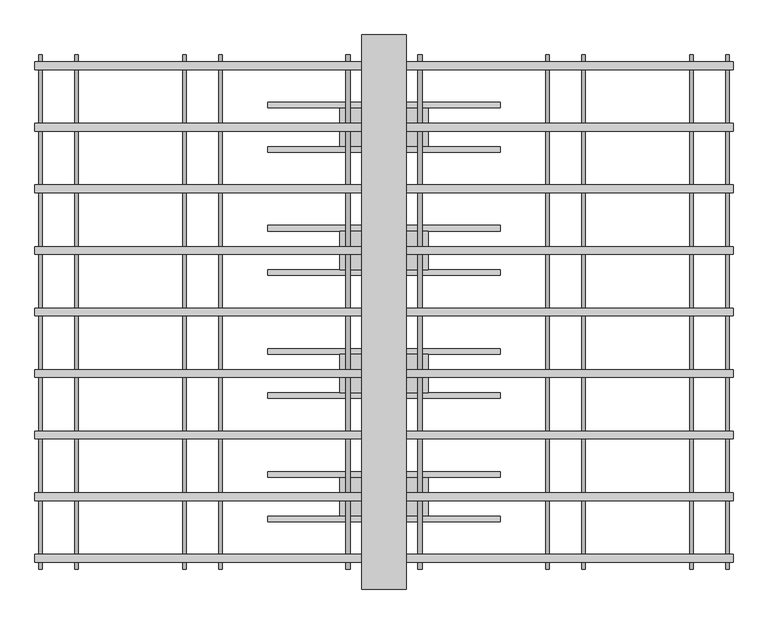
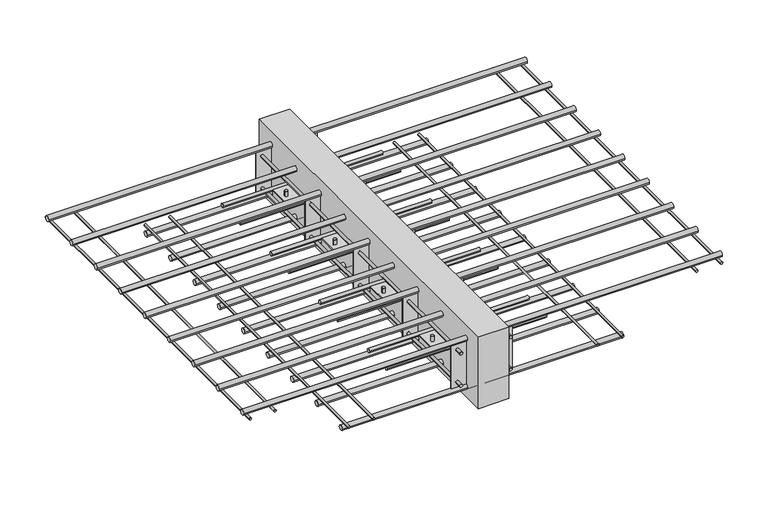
"""IFC4 building model written with IfcOpenShell, lengths in millimetres: proxy geometry, ACINOXplus_Typenreihe_K : KG+ S4."""

from ifc_helpers import new_model, si_unit, point, frame, frame_2d, origin, place, context, project, spatial, polyline, circle_curve, trimmed, segment, composite_curve, outline, extrude, source, transform, mapped, element, save
from ifc_brep_helpers import plane_surface, cylinder_surface, advanced_brep


def generic_models_16729dbf(model_context):
    return source(origin(), model_context, "Body", "SolidModel", [
        extrude(outline(composite_curve([segment(trimmed(circle_curve(frame_2d((-373.3333333, -104.0)), 5.0), [point((-378.3333333, -104.0))], [point((-368.3333333, -104.0))], False, "CARTESIAN"), True, "CONTINUOUS"), segment(trimmed(circle_curve(frame_2d((-373.3333333, -104.0)), 5.0), [point((-368.3333333, -104.0))], [point((-378.3333333, -104.0))], False, "CARTESIAN"), True, "CONTINUOUS")], self_intersect=False)), frame((-210.0, 0.0, 0.0), z_axis=(1.0, 0.0, 0.0), x_axis=(0.0, 1.0, 0.0)), (0.0, 0.0, 1.0), 420.0),
        extrude(outline(composite_curve([segment(trimmed(circle_curve(frame_2d((-293.3333333, -104.0)), 5.0), [point((-298.3333333, -104.0))], [point((-288.3333333, -104.0))], False, "CARTESIAN"), True, "CONTINUOUS"), segment(trimmed(circle_curve(frame_2d((-293.3333333, -104.0)), 5.0), [point((-288.3333333, -104.0))], [point((-298.3333333, -104.0))], False, "CARTESIAN"), True, "CONTINUOUS")], self_intersect=False)), frame((-210.0, 0.0, 0.0), z_axis=(1.0, 0.0, 0.0), x_axis=(0.0, 1.0, 0.0)), (0.0, 0.0, 1.0), 420.0),
        advanced_brep(
        [(-69.0, -333.3333333, -89.0), (-61.0, -333.3333333, -89.0), (61.0, -333.3333333, -89.0), (69.0, -333.3333333, -89.0), (-69.0, -333.3333333, -119.0), (-61.0, -333.3333333, -119.0), (61.0, -333.3333333, -119.0), (69.0, -333.3333333, -119.0), (-69.0, -333.3333333, -102.5), (-61.0, -333.3333333, -102.5), (-61.0, -333.3333333, -105.5), (-69.0, -333.3333333, -105.5), (61.0, -333.3333333, -102.5), (69.0, -333.3333333, -102.5), (69.0, -333.3333333, -105.5), (61.0, -333.3333333, -105.5), (80.0, -298.3333333, -102.5), (-80.0, -298.3333333, -102.5), (-80.0, -368.3333333, -102.5), (80.0, -368.3333333, -102.5), (80.0, -298.3333333, -105.5), (80.0, -368.3333333, -105.5), (-80.0, -368.3333333, -105.5), (-80.0, -298.3333333, -105.5)],
        [
            (0, 1, circle_curve(frame((-65.0, -333.3333333, -89.0), z_axis=(0.0, 0.0, 1.0), x_axis=(1.0, 0.0, 0.0)), 4.0)),
            (1, 0, circle_curve(frame((-65.0, -333.3333333, -89.0), z_axis=(0.0, 0.0, 1.0), x_axis=(1.0, 0.0, 0.0)), 4.0)),
            (2, 3, circle_curve(frame((65.0, -333.3333333, -89.0), z_axis=(0.0, 0.0, 1.0), x_axis=(1.0, 0.0, 0.0)), 4.0)),
            (3, 2, circle_curve(frame((65.0, -333.3333333, -89.0), z_axis=(0.0, 0.0, 1.0), x_axis=(1.0, 0.0, 0.0)), 4.0)),
            (4, 5, circle_curve(frame((-65.0, -333.3333333, -119.0), z_axis=(0.0, 0.0, -1.0), x_axis=(1.0, 0.0, 0.0)), 4.0)),
            (5, 4, circle_curve(frame((-65.0, -333.3333333, -119.0), z_axis=(0.0, 0.0, -1.0), x_axis=(1.0, 0.0, 0.0)), 4.0)),
            (6, 7, circle_curve(frame((65.0, -333.3333333, -119.0), z_axis=(0.0, 0.0, -1.0), x_axis=(1.0, 0.0, 0.0)), 4.0)),
            (7, 6, circle_curve(frame((65.0, -333.3333333, -119.0), z_axis=(0.0, 0.0, -1.0), x_axis=(1.0, 0.0, 0.0)), 4.0)),
            (0, 8),
            (8, 9, circle_curve(frame((-65.0, -333.3333333, -102.5), z_axis=(0.0, 0.0, 1.0), x_axis=(1.0, 0.0, 0.0)), 4.0)),
            (9, 1),
            (5, 10),
            (10, 11, circle_curve(frame((-65.0, -333.3333333, -105.5), z_axis=(0.0, 0.0, -1.0), x_axis=(1.0, 0.0, 0.0)), 4.0)),
            (11, 4),
            (9, 8, circle_curve(frame((-65.0, -333.3333333, -102.5), z_axis=(0.0, 0.0, 1.0), x_axis=(1.0, 0.0, 0.0)), 4.0)),
            (11, 10, circle_curve(frame((-65.0, -333.3333333, -105.5), z_axis=(0.0, 0.0, -1.0), x_axis=(1.0, 0.0, 0.0)), 4.0)),
            (2, 12),
            (12, 13, circle_curve(frame((65.0, -333.3333333, -102.5), z_axis=(0.0, 0.0, 1.0), x_axis=(1.0, 0.0, 0.0)), 4.0)),
            (13, 3),
            (7, 14),
            (14, 15, circle_curve(frame((65.0, -333.3333333, -105.5), z_axis=(0.0, 0.0, -1.0), x_axis=(1.0, 0.0, 0.0)), 4.0)),
            (15, 6),
            (13, 12, circle_curve(frame((65.0, -333.3333333, -102.5), z_axis=(0.0, 0.0, 1.0), x_axis=(1.0, 0.0, 0.0)), 4.0)),
            (15, 14, circle_curve(frame((65.0, -333.3333333, -105.5), z_axis=(0.0, 0.0, -1.0), x_axis=(1.0, 0.0, 0.0)), 4.0)),
            (16, 17),
            (17, 18),
            (18, 19),
            (19, 16),
            (20, 21),
            (21, 22),
            (22, 23),
            (23, 20),
            (16, 20),
            (23, 17),
            (22, 18),
            (21, 19),
        ],
        [
            plane_surface(frame((-61.0, -333.3333333, -89.0), z_axis=(0.0, 0.0, 1.0), x_axis=(0.0, 1.0, 0.0))),
            plane_surface(frame((-61.0, -333.3333333, -119.0), z_axis=(0.0, 0.0, -1.0), x_axis=(0.0, -1.0, 0.0))),
            cylinder_surface(frame((-65.0, -333.3333333, -119.0), z_axis=(0.0, 0.0, 1.0), x_axis=(1.0, 0.0, 0.0)), 4.0),
            cylinder_surface(frame((65.0, -333.3333333, -104.0), z_axis=(0.0, 0.0, 1.0), x_axis=(1.0, 0.0, 0.0)), 4.0),
            plane_surface(frame((-80.0, -298.3333333, -102.5), z_axis=(0.0, 0.0, 1.0), x_axis=(-1.0, 0.0, 0.0))),
            plane_surface(frame((-80.0, -298.3333333, -105.5), z_axis=(0.0, 0.0, -1.0), x_axis=(1.0, 0.0, 0.0))),
            plane_surface(frame((80.0, -298.3333333, -102.5), z_axis=(0.0, 1.0, 0.0), x_axis=(0.0, 0.0, -1.0))),
            plane_surface(frame((-80.0, -298.3333333, -102.5), z_axis=(-1.0, 0.0, 0.0), x_axis=(0.0, 0.0, -1.0))),
            plane_surface(frame((-80.0, -368.3333333, -102.5), z_axis=(0.0, -1.0, 0.0), x_axis=(0.0, 0.0, -1.0))),
            plane_surface(frame((80.0, -368.3333333, -102.5), z_axis=(1.0, 0.0, 0.0), x_axis=(0.0, 0.0, -1.0))),
        ],
        [
            (0, [[1, 2]]),
            (0, [[3, 4]]),
            (1, [[5, 6]]),
            (1, [[7, 8]]),
            (2, [[-1, 9, 10, 11]]),
            (2, [[-6, 12, 13, 14]]),
            (2, [[-2, -11, 15, -9]]),
            (2, [[-5, -14, 16, -12]]),
            (3, [[-3, 17, 18, 19]]),
            (3, [[-8, 20, 21, 22]]),
            (3, [[-4, -19, 23, -17]]),
            (3, [[-7, -22, 24, -20]]),
            (4, [[25, 26, 27, 28], [-10, -15], [-18, -23]]),
            (5, [[29, 30, 31, 32], [-13, -16], [-21, -24]]),
            (6, [[-25, 33, -32, 34]]),
            (7, [[-26, -34, -31, 35]]),
            (8, [[-27, -35, -30, 36]]),
            (9, [[-28, -36, -29, -33]]),
        ],
    ),
        extrude(outline(composite_curve([segment(trimmed(circle_curve(frame_2d((293.3333333, -104.0)), 5.0), [point((288.3333333, -104.0))], [point((298.3333333, -104.0))], False, "CARTESIAN"), True, "CONTINUOUS"), segment(trimmed(circle_curve(frame_2d((293.3333333, -104.0)), 5.0), [point((298.3333333, -104.0))], [point((288.3333333, -104.0))], False, "CARTESIAN"), True, "CONTINUOUS")], self_intersect=False)), frame((-210.0, 0.0, 0.0), z_axis=(1.0, 0.0, 0.0), x_axis=(0.0, 1.0, 0.0)), (0.0, 0.0, 1.0), 420.0),
        extrude(outline(composite_curve([segment(trimmed(circle_curve(frame_2d((373.3333333, -104.0)), 5.0), [point((368.3333333, -104.0))], [point((378.3333333, -104.0))], False, "CARTESIAN"), True, "CONTINUOUS"), segment(trimmed(circle_curve(frame_2d((373.3333333, -104.0)), 5.0), [point((378.3333333, -104.0))], [point((368.3333333, -104.0))], False, "CARTESIAN"), True, "CONTINUOUS")], self_intersect=False)), frame((-210.0, 0.0, 0.0), z_axis=(1.0, 0.0, 0.0), x_axis=(0.0, 1.0, 0.0)), (0.0, 0.0, 1.0), 420.0),
        advanced_brep(
        [(-69.0, 333.3333333, -89.0), (-61.0, 333.3333333, -89.0), (61.0, 333.3333333, -89.0), (69.0, 333.3333333, -89.0), (-69.0, 333.3333333, -119.0), (-61.0, 333.3333333, -119.0), (61.0, 333.3333333, -119.0), (69.0, 333.3333333, -119.0), (-69.0, 333.3333333, -102.5), (-61.0, 333.3333333, -102.5), (-61.0, 333.3333333, -105.5), (-69.0, 333.3333333, -105.5), (61.0, 333.3333333, -102.5), (69.0, 333.3333333, -102.5), (69.0, 333.3333333, -105.5), (61.0, 333.3333333, -105.5), (80.0, 368.3333333, -102.5), (-80.0, 368.3333333, -102.5), (-80.0, 298.3333333, -102.5), (80.0, 298.3333333, -102.5), (80.0, 368.3333333, -105.5), (80.0, 298.3333333, -105.5), (-80.0, 298.3333333, -105.5), (-80.0, 368.3333333, -105.5)],
        [
            (0, 1, circle_curve(frame((-65.0, 333.3333333, -89.0), z_axis=(0.0, 0.0, 1.0), x_axis=(1.0, 0.0, 0.0)), 4.0)),
            (1, 0, circle_curve(frame((-65.0, 333.3333333, -89.0), z_axis=(0.0, 0.0, 1.0), x_axis=(1.0, 0.0, 0.0)), 4.0)),
            (2, 3, circle_curve(frame((65.0, 333.3333333, -89.0), z_axis=(0.0, 0.0, 1.0), x_axis=(1.0, 0.0, 0.0)), 4.0)),
            (3, 2, circle_curve(frame((65.0, 333.3333333, -89.0), z_axis=(0.0, 0.0, 1.0), x_axis=(1.0, 0.0, 0.0)), 4.0)),
            (4, 5, circle_curve(frame((-65.0, 333.3333333, -119.0), z_axis=(0.0, 0.0, -1.0), x_axis=(1.0, 0.0, 0.0)), 4.0)),
            (5, 4, circle_curve(frame((-65.0, 333.3333333, -119.0), z_axis=(0.0, 0.0, -1.0), x_axis=(1.0, 0.0, 0.0)), 4.0)),
            (6, 7, circle_curve(frame((65.0, 333.3333333, -119.0), z_axis=(0.0, 0.0, -1.0), x_axis=(1.0, 0.0, 0.0)), 4.0)),
            (7, 6, circle_curve(frame((65.0, 333.3333333, -119.0), z_axis=(0.0, 0.0, -1.0), x_axis=(1.0, 0.0, 0.0)), 4.0)),
            (0, 8),
            (8, 9, circle_curve(frame((-65.0, 333.3333333, -102.5), z_axis=(0.0, 0.0, 1.0), x_axis=(1.0, 0.0, 0.0)), 4.0)),
            (9, 1),
            (5, 10),
            (10, 11, circle_curve(frame((-65.0, 333.3333333, -105.5), z_axis=(0.0, 0.0, -1.0), x_axis=(1.0, 0.0, 0.0)), 4.0)),
            (11, 4),
            (9, 8, circle_curve(frame((-65.0, 333.3333333, -102.5), z_axis=(0.0, 0.0, 1.0), x_axis=(1.0, 0.0, 0.0)), 4.0)),
            (11, 10, circle_curve(frame((-65.0, 333.3333333, -105.5), z_axis=(0.0, 0.0, -1.0), x_axis=(1.0, 0.0, 0.0)), 4.0)),
            (2, 12),
            (12, 13, circle_curve(frame((65.0, 333.3333333, -102.5), z_axis=(0.0, 0.0, 1.0), x_axis=(1.0, 0.0, 0.0)), 4.0)),
            (13, 3),
            (7, 14),
            (14, 15, circle_curve(frame((65.0, 333.3333333, -105.5), z_axis=(0.0, 0.0, -1.0), x_axis=(1.0, 0.0, 0.0)), 4.0)),
            (15, 6),
            (13, 12, circle_curve(frame((65.0, 333.3333333, -102.5), z_axis=(0.0, 0.0, 1.0), x_axis=(1.0, 0.0, 0.0)), 4.0)),
            (15, 14, circle_curve(frame((65.0, 333.3333333, -105.5), z_axis=(0.0, 0.0, -1.0), x_axis=(1.0, 0.0, 0.0)), 4.0)),
            (16, 17),
            (17, 18),
            (18, 19),
            (19, 16),
            (20, 21),
            (21, 22),
            (22, 23),
            (23, 20),
            (16, 20),
            (23, 17),
            (22, 18),
            (21, 19),
        ],
        [
            plane_surface(frame((-61.0, 333.3333333, -89.0), z_axis=(0.0, 0.0, 1.0), x_axis=(0.0, 1.0, 0.0))),
            plane_surface(frame((-61.0, 333.3333333, -119.0), z_axis=(0.0, 0.0, -1.0), x_axis=(0.0, -1.0, 0.0))),
            cylinder_surface(frame((-65.0, 333.3333333, -119.0), z_axis=(0.0, 0.0, 1.0), x_axis=(1.0, 0.0, 0.0)), 4.0),
            cylinder_surface(frame((65.0, 333.3333333, -104.0), z_axis=(0.0, 0.0, 1.0), x_axis=(1.0, 0.0, 0.0)), 4.0),
            plane_surface(frame((-80.0, 368.3333333, -102.5), z_axis=(0.0, 0.0, 1.0), x_axis=(-1.0, 0.0, 0.0))),
            plane_surface(frame((-80.0, 368.3333333, -105.5), z_axis=(0.0, 0.0, -1.0), x_axis=(1.0, 0.0, 0.0))),
            plane_surface(frame((80.0, 368.3333333, -102.5), z_axis=(0.0, 1.0, 0.0), x_axis=(0.0, 0.0, -1.0))),
            plane_surface(frame((-80.0, 368.3333333, -102.5), z_axis=(-1.0, 0.0, 0.0), x_axis=(0.0, 0.0, -1.0))),
            plane_surface(frame((-80.0, 298.3333333, -102.5), z_axis=(0.0, -1.0, 0.0), x_axis=(0.0, 0.0, -1.0))),
            plane_surface(frame((80.0, 298.3333333, -102.5), z_axis=(1.0, 0.0, 0.0), x_axis=(0.0, 0.0, -1.0))),
        ],
        [
            (0, [[1, 2]]),
            (0, [[3, 4]]),
            (1, [[5, 6]]),
            (1, [[7, 8]]),
            (2, [[-1, 9, 10, 11]]),
            (2, [[-6, 12, 13, 14]]),
            (2, [[-2, -11, 15, -9]]),
            (2, [[-5, -14, 16, -12]]),
            (3, [[-3, 17, 18, 19]]),
            (3, [[-8, 20, 21, 22]]),
            (3, [[-4, -19, 23, -17]]),
            (3, [[-7, -22, 24, -20]]),
            (4, [[25, 26, 27, 28], [-10, -15], [-18, -23]]),
            (5, [[29, 30, 31, 32], [-13, -16], [-21, -24]]),
            (6, [[-25, 33, -32, 34]]),
            (7, [[-26, -34, -31, 35]]),
            (8, [[-27, -35, -30, 36]]),
            (9, [[-28, -36, -29, -33]]),
        ],
    ),
        extrude(outline(composite_curve([segment(trimmed(circle_curve(frame_2d((-151.1111111, -104.0)), 5.0), [point((-156.1111111, -104.0))], [point((-146.1111111, -104.0))], False, "CARTESIAN"), True, "CONTINUOUS"), segment(trimmed(circle_curve(frame_2d((-151.1111111, -104.0)), 5.0), [point((-146.1111111, -104.0))], [point((-156.1111111, -104.0))], False, "CARTESIAN"), True, "CONTINUOUS")], self_intersect=False)), frame((-210.0, 0.0, 0.0), z_axis=(1.0, 0.0, 0.0), x_axis=(0.0, 1.0, 0.0)), (0.0, 0.0, 1.0), 420.0),
        extrude(outline(composite_curve([segment(trimmed(circle_curve(frame_2d((-71.1111111, -104.0)), 5.0), [point((-76.1111111, -104.0))], [point((-66.1111111, -104.0))], False, "CARTESIAN"), True, "CONTINUOUS"), segment(trimmed(circle_curve(frame_2d((-71.1111111, -104.0)), 5.0), [point((-66.1111111, -104.0))], [point((-76.1111111, -104.0))], False, "CARTESIAN"), True, "CONTINUOUS")], self_intersect=False)), frame((-210.0, 0.0, 0.0), z_axis=(1.0, 0.0, 0.0), x_axis=(0.0, 1.0, 0.0)), (0.0, 0.0, 1.0), 420.0),
        advanced_brep(
        [(-69.0, -111.1111111, -89.0), (-61.0, -111.1111111, -89.0), (61.0, -111.1111111, -89.0), (69.0, -111.1111111, -89.0), (-69.0, -111.1111111, -119.0), (-61.0, -111.1111111, -119.0), (61.0, -111.1111111, -119.0), (69.0, -111.1111111, -119.0), (-69.0, -111.1111111, -102.5), (-61.0, -111.1111111, -102.5), (-61.0, -111.1111111, -105.5), (-69.0, -111.1111111, -105.5), (61.0, -111.1111111, -102.5), (69.0, -111.1111111, -102.5), (69.0, -111.1111111, -105.5), (61.0, -111.1111111, -105.5), (80.0, -76.1111111, -102.5), (-80.0, -76.1111111, -102.5), (-80.0, -146.1111111, -102.5), (80.0, -146.1111111, -102.5), (80.0, -76.1111111, -105.5), (80.0, -146.1111111, -105.5), (-80.0, -146.1111111, -105.5), (-80.0, -76.1111111, -105.5)],
        [
            (0, 1, circle_curve(frame((-65.0, -111.1111111, -89.0), z_axis=(0.0, 0.0, 1.0), x_axis=(1.0, 0.0, 0.0)), 4.0)),
            (1, 0, circle_curve(frame((-65.0, -111.1111111, -89.0), z_axis=(0.0, 0.0, 1.0), x_axis=(1.0, 0.0, 0.0)), 4.0)),
            (2, 3, circle_curve(frame((65.0, -111.1111111, -89.0), z_axis=(0.0, 0.0, 1.0), x_axis=(1.0, 0.0, 0.0)), 4.0)),
            (3, 2, circle_curve(frame((65.0, -111.1111111, -89.0), z_axis=(0.0, 0.0, 1.0), x_axis=(1.0, 0.0, 0.0)), 4.0)),
            (4, 5, circle_curve(frame((-65.0, -111.1111111, -119.0), z_axis=(0.0, 0.0, -1.0), x_axis=(1.0, 0.0, 0.0)), 4.0)),
            (5, 4, circle_curve(frame((-65.0, -111.1111111, -119.0), z_axis=(0.0, 0.0, -1.0), x_axis=(1.0, 0.0, 0.0)), 4.0)),
            (6, 7, circle_curve(frame((65.0, -111.1111111, -119.0), z_axis=(0.0, 0.0, -1.0), x_axis=(1.0, 0.0, 0.0)), 4.0)),
            (7, 6, circle_curve(frame((65.0, -111.1111111, -119.0), z_axis=(0.0, 0.0, -1.0), x_axis=(1.0, 0.0, 0.0)), 4.0)),
            (0, 8),
            (8, 9, circle_curve(frame((-65.0, -111.1111111, -102.5), z_axis=(0.0, 0.0, 1.0), x_axis=(1.0, 0.0, 0.0)), 4.0)),
            (9, 1),
            (5, 10),
            (10, 11, circle_curve(frame((-65.0, -111.1111111, -105.5), z_axis=(0.0, 0.0, -1.0), x_axis=(1.0, 0.0, 0.0)), 4.0)),
            (11, 4),
            (9, 8, circle_curve(frame((-65.0, -111.1111111, -102.5), z_axis=(0.0, 0.0, 1.0), x_axis=(1.0, 0.0, 0.0)), 4.0)),
            (11, 10, circle_curve(frame((-65.0, -111.1111111, -105.5), z_axis=(0.0, 0.0, -1.0), x_axis=(1.0, 0.0, 0.0)), 4.0)),
            (2, 12),
            (12, 13, circle_curve(frame((65.0, -111.1111111, -102.5), z_axis=(0.0, 0.0, 1.0), x_axis=(1.0, 0.0, 0.0)), 4.0)),
            (13, 3),
            (7, 14),
            (14, 15, circle_curve(frame((65.0, -111.1111111, -105.5), z_axis=(0.0, 0.0, -1.0), x_axis=(1.0, 0.0, 0.0)), 4.0)),
            (15, 6),
            (13, 12, circle_curve(frame((65.0, -111.1111111, -102.5), z_axis=(0.0, 0.0, 1.0), x_axis=(1.0, 0.0, 0.0)), 4.0)),
            (15, 14, circle_curve(frame((65.0, -111.1111111, -105.5), z_axis=(0.0, 0.0, -1.0), x_axis=(1.0, 0.0, 0.0)), 4.0)),
            (16, 17),
            (17, 18),
            (18, 19),
            (19, 16),
            (20, 21),
            (21, 22),
            (22, 23),
            (23, 20),
            (16, 20),
            (23, 17),
            (22, 18),
            (21, 19),
        ],
        [
            plane_surface(frame((-61.0, -111.1111111, -89.0), z_axis=(0.0, 0.0, 1.0), x_axis=(0.0, 1.0, 0.0))),
            plane_surface(frame((-61.0, -111.1111111, -119.0), z_axis=(0.0, 0.0, -1.0), x_axis=(0.0, -1.0, 0.0))),
            cylinder_surface(frame((-65.0, -111.1111111, -119.0), z_axis=(0.0, 0.0, 1.0), x_axis=(1.0, 0.0, 0.0)), 4.0),
            cylinder_surface(frame((65.0, -111.1111111, -104.0), z_axis=(0.0, 0.0, 1.0), x_axis=(1.0, 0.0, 0.0)), 4.0),
            plane_surface(frame((-80.0, -76.1111111, -102.5), z_axis=(0.0, 0.0, 1.0), x_axis=(-1.0, 0.0, 0.0))),
            plane_surface(frame((-80.0, -76.1111111, -105.5), z_axis=(0.0, 0.0, -1.0), x_axis=(1.0, 0.0, 0.0))),
            plane_surface(frame((80.0, -76.1111111, -102.5), z_axis=(0.0, 1.0, 0.0), x_axis=(0.0, 0.0, -1.0))),
            plane_surface(frame((-80.0, -76.1111111, -102.5), z_axis=(-1.0, 0.0, 0.0), x_axis=(0.0, 0.0, -1.0))),
            plane_surface(frame((-80.0, -146.1111111, -102.5), z_axis=(0.0, -1.0, 0.0), x_axis=(0.0, 0.0, -1.0))),
            plane_surface(frame((80.0, -146.1111111, -102.5), z_axis=(1.0, 0.0, 0.0), x_axis=(0.0, 0.0, -1.0))),
        ],
        [
            (0, [[1, 2]]),
            (0, [[3, 4]]),
            (1, [[5, 6]]),
            (1, [[7, 8]]),
            (2, [[-1, 9, 10, 11]]),
            (2, [[-6, 12, 13, 14]]),
            (2, [[-2, -11, 15, -9]]),
            (2, [[-5, -14, 16, -12]]),
            (3, [[-3, 17, 18, 19]]),
            (3, [[-8, 20, 21, 22]]),
            (3, [[-4, -19, 23, -17]]),
            (3, [[-7, -22, 24, -20]]),
            (4, [[25, 26, 27, 28], [-10, -15], [-18, -23]]),
            (5, [[29, 30, 31, 32], [-13, -16], [-21, -24]]),
            (6, [[-25, 33, -32, 34]]),
            (7, [[-26, -34, -31, 35]]),
            (8, [[-27, -35, -30, 36]]),
            (9, [[-28, -36, -29, -33]]),
        ],
    ),
        extrude(outline(composite_curve([segment(trimmed(circle_curve(frame_2d((71.1111111, -104.0)), 5.0), [point((66.1111111, -104.0))], [point((76.1111111, -104.0))], False, "CARTESIAN"), True, "CONTINUOUS"), segment(trimmed(circle_curve(frame_2d((71.1111111, -104.0)), 5.0), [point((76.1111111, -104.0))], [point((66.1111111, -104.0))], False, "CARTESIAN"), True, "CONTINUOUS")], self_intersect=False)), frame((-210.0, 0.0, 0.0), z_axis=(1.0, 0.0, 0.0), x_axis=(0.0, 1.0, 0.0)), (0.0, 0.0, 1.0), 420.0),
        extrude(outline(composite_curve([segment(trimmed(circle_curve(frame_2d((151.1111111, -104.0)), 5.0), [point((146.1111111, -104.0))], [point((156.1111111, -104.0))], False, "CARTESIAN"), True, "CONTINUOUS"), segment(trimmed(circle_curve(frame_2d((151.1111111, -104.0)), 5.0), [point((156.1111111, -104.0))], [point((146.1111111, -104.0))], False, "CARTESIAN"), True, "CONTINUOUS")], self_intersect=False)), frame((-210.0, 0.0, 0.0), z_axis=(1.0, 0.0, 0.0), x_axis=(0.0, 1.0, 0.0)), (0.0, 0.0, 1.0), 420.0),
        advanced_brep(
        [(-69.0, 111.1111111, -89.0), (-61.0, 111.1111111, -89.0), (61.0, 111.1111111, -89.0), (69.0, 111.1111111, -89.0), (-69.0, 111.1111111, -119.0), (-61.0, 111.1111111, -119.0), (61.0, 111.1111111, -119.0), (69.0, 111.1111111, -119.0), (-69.0, 111.1111111, -102.5), (-61.0, 111.1111111, -102.5), (-61.0, 111.1111111, -105.5), (-69.0, 111.1111111, -105.5), (61.0, 111.1111111, -102.5), (69.0, 111.1111111, -102.5), (69.0, 111.1111111, -105.5), (61.0, 111.1111111, -105.5), (80.0, 146.1111111, -102.5), (-80.0, 146.1111111, -102.5), (-80.0, 76.1111111, -102.5), (80.0, 76.1111111, -102.5), (80.0, 146.1111111, -105.5), (80.0, 76.1111111, -105.5), (-80.0, 76.1111111, -105.5), (-80.0, 146.1111111, -105.5)],
        [
            (0, 1, circle_curve(frame((-65.0, 111.1111111, -89.0), z_axis=(0.0, 0.0, 1.0), x_axis=(1.0, 0.0, 0.0)), 4.0)),
            (1, 0, circle_curve(frame((-65.0, 111.1111111, -89.0), z_axis=(0.0, 0.0, 1.0), x_axis=(1.0, 0.0, 0.0)), 4.0)),
            (2, 3, circle_curve(frame((65.0, 111.1111111, -89.0), z_axis=(0.0, 0.0, 1.0), x_axis=(1.0, 0.0, 0.0)), 4.0)),
            (3, 2, circle_curve(frame((65.0, 111.1111111, -89.0), z_axis=(0.0, 0.0, 1.0), x_axis=(1.0, 0.0, 0.0)), 4.0)),
            (4, 5, circle_curve(frame((-65.0, 111.1111111, -119.0), z_axis=(0.0, 0.0, -1.0), x_axis=(1.0, 0.0, 0.0)), 4.0)),
            (5, 4, circle_curve(frame((-65.0, 111.1111111, -119.0), z_axis=(0.0, 0.0, -1.0), x_axis=(1.0, 0.0, 0.0)), 4.0)),
            (6, 7, circle_curve(frame((65.0, 111.1111111, -119.0), z_axis=(0.0, 0.0, -1.0), x_axis=(1.0, 0.0, 0.0)), 4.0)),
            (7, 6, circle_curve(frame((65.0, 111.1111111, -119.0), z_axis=(0.0, 0.0, -1.0), x_axis=(1.0, 0.0, 0.0)), 4.0)),
            (0, 8),
            (8, 9, circle_curve(frame((-65.0, 111.1111111, -102.5), z_axis=(0.0, 0.0, 1.0), x_axis=(1.0, 0.0, 0.0)), 4.0)),
            (9, 1),
            (5, 10),
            (10, 11, circle_curve(frame((-65.0, 111.1111111, -105.5), z_axis=(0.0, 0.0, -1.0), x_axis=(1.0, 0.0, 0.0)), 4.0)),
            (11, 4),
            (9, 8, circle_curve(frame((-65.0, 111.1111111, -102.5), z_axis=(0.0, 0.0, 1.0), x_axis=(1.0, 0.0, 0.0)), 4.0)),
            (11, 10, circle_curve(frame((-65.0, 111.1111111, -105.5), z_axis=(0.0, 0.0, -1.0), x_axis=(1.0, 0.0, 0.0)), 4.0)),
            (2, 12),
            (12, 13, circle_curve(frame((65.0, 111.1111111, -102.5), z_axis=(0.0, 0.0, 1.0), x_axis=(1.0, 0.0, 0.0)), 4.0)),
            (13, 3),
            (7, 14),
            (14, 15, circle_curve(frame((65.0, 111.1111111, -105.5), z_axis=(0.0, 0.0, -1.0), x_axis=(1.0, 0.0, 0.0)), 4.0)),
            (15, 6),
            (13, 12, circle_curve(frame((65.0, 111.1111111, -102.5), z_axis=(0.0, 0.0, 1.0), x_axis=(1.0, 0.0, 0.0)), 4.0)),
            (15, 14, circle_curve(frame((65.0, 111.1111111, -105.5), z_axis=(0.0, 0.0, -1.0), x_axis=(1.0, 0.0, 0.0)), 4.0)),
            (16, 17),
            (17, 18),
            (18, 19),
            (19, 16),
            (20, 21),
            (21, 22),
            (22, 23),
            (23, 20),
            (16, 20),
            (23, 17),
            (22, 18),
            (21, 19),
        ],
        [
            plane_surface(frame((-61.0, 111.1111111, -89.0), z_axis=(0.0, 0.0, 1.0), x_axis=(0.0, 1.0, 0.0))),
            plane_surface(frame((-61.0, 111.1111111, -119.0), z_axis=(0.0, 0.0, -1.0), x_axis=(0.0, -1.0, 0.0))),
            cylinder_surface(frame((-65.0, 111.1111111, -119.0), z_axis=(0.0, 0.0, 1.0), x_axis=(1.0, 0.0, 0.0)), 4.0),
            cylinder_surface(frame((65.0, 111.1111111, -104.0), z_axis=(0.0, 0.0, 1.0), x_axis=(1.0, 0.0, 0.0)), 4.0),
            plane_surface(frame((-80.0, 146.1111111, -102.5), z_axis=(0.0, 0.0, 1.0), x_axis=(-1.0, 0.0, 0.0))),
            plane_surface(frame((-80.0, 146.1111111, -105.5), z_axis=(0.0, 0.0, -1.0), x_axis=(1.0, 0.0, 0.0))),
            plane_surface(frame((80.0, 146.1111111, -102.5), z_axis=(0.0, 1.0, 0.0), x_axis=(0.0, 0.0, -1.0))),
            plane_surface(frame((-80.0, 146.1111111, -102.5), z_axis=(-1.0, 0.0, 0.0), x_axis=(0.0, 0.0, -1.0))),
            plane_surface(frame((-80.0, 76.1111111, -102.5), z_axis=(0.0, -1.0, 0.0), x_axis=(0.0, 0.0, -1.0))),
            plane_surface(frame((80.0, 76.1111111, -102.5), z_axis=(1.0, 0.0, 0.0), x_axis=(0.0, 0.0, -1.0))),
        ],
        [
            (0, [[1, 2]]),
            (0, [[3, 4]]),
            (1, [[5, 6]]),
            (1, [[7, 8]]),
            (2, [[-1, 9, 10, 11]]),
            (2, [[-6, 12, 13, 14]]),
            (2, [[-2, -11, 15, -9]]),
            (2, [[-5, -14, 16, -12]]),
            (3, [[-3, 17, 18, 19]]),
            (3, [[-8, 20, 21, 22]]),
            (3, [[-4, -19, 23, -17]]),
            (3, [[-7, -22, 24, -20]]),
            (4, [[25, 26, 27, 28], [-10, -15], [-18, -23]]),
            (5, [[29, 30, 31, 32], [-13, -16], [-21, -24]]),
            (6, [[-25, 33, -32, 34]]),
            (7, [[-26, -34, -31, 35]]),
            (8, [[-27, -35, -30, 36]]),
            (9, [[-28, -36, -29, -33]]),
        ],
    ),
        extrude(outline(polyline([(40.0, 500.0), (40.0, -500.0), (-40.0, -500.0), (-40.0, 500.0), (40.0, 500.0)])), frame((0.0, 0.0, -200.0), z_axis=(0.0, 0.0, 1.0), x_axis=(1.0, 0.0, 0.0)), (0.0, 0.0, 1.0), 200.0),
        extrude(outline(polyline([(80.0, -220.7222222), (80.0, -223.7222222), (-80.0, -223.7222222), (-80.0, -220.7222222), (80.0, -220.7222222)])), frame((0.0, 0.0, -164.0), z_axis=(0.0, 0.0, 1.0), x_axis=(1.0, 0.0, 0.0)), (0.0, 0.0, 1.0), 120.0),
        extrude(outline(polyline([(80.0, 1.5), (80.0, -1.5), (-80.0, -1.5), (-80.0, 1.5), (80.0, 1.5)])), frame((0.0, 0.0, -164.0), z_axis=(0.0, 0.0, 1.0), x_axis=(1.0, 0.0, 0.0)), (0.0, 0.0, 1.0), 120.0),
        extrude(outline(polyline([(80.0, 223.7222222), (80.0, 220.7222222), (-80.0, 220.7222222), (-80.0, 223.7222222), (80.0, 223.7222222)])), frame((0.0, 0.0, -164.0), z_axis=(0.0, 0.0, 1.0), x_axis=(1.0, 0.0, 0.0)), (0.0, 0.0, 1.0), 120.0),
        extrude(outline(polyline([(80.0, -442.9444444), (80.0, -445.9444444), (-80.0, -445.9444444), (-80.0, -442.9444444), (80.0, -442.9444444)])), frame((0.0, 0.0, -164.0), z_axis=(0.0, 0.0, 1.0), x_axis=(1.0, 0.0, 0.0)), (0.0, 0.0, 1.0), 120.0),
        extrude(outline(polyline([(80.0, 445.9444444), (80.0, 442.9444444), (-80.0, 442.9444444), (-80.0, 445.9444444), (80.0, 445.9444444)])), frame((0.0, 0.0, -164.0), z_axis=(0.0, 0.0, 1.0), x_axis=(1.0, 0.0, 0.0)), (0.0, 0.0, 1.0), 120.0),
        extrude(outline(composite_curve([segment(trimmed(circle_curve(frame_2d((-149.0, -65.0)), 4.0), [point((-149.0, -61.0))], [point((-149.0, -69.0))], False, "CARTESIAN"), True, "CONTINUOUS"), segment(trimmed(circle_curve(frame_2d((-149.0, -65.0)), 4.0), [point((-149.0, -69.0))], [point((-149.0, -61.0))], False, "CARTESIAN"), True, "CONTINUOUS")], self_intersect=False)), frame((0.0, -464.4444444, 0.0), z_axis=(0.0, 1.0, 0.0), x_axis=(0.0, 0.0, 1.0)), (0.0, 0.0, 1.0), 18.5),
        extrude(outline(composite_curve([segment(trimmed(circle_curve(frame_2d((-149.0, -65.0)), 4.0), [point((-149.0, -69.0))], [point((-149.0, -61.0))], False, "CARTESIAN"), True, "CONTINUOUS"), segment(trimmed(circle_curve(frame_2d((-149.0, -65.0)), 4.0), [point((-149.0, -61.0))], [point((-149.0, -69.0))], False, "CARTESIAN"), True, "CONTINUOUS")], self_intersect=False)), frame((0.0, -442.9444444, 0.0), z_axis=(0.0, 1.0, 0.0), x_axis=(0.0, 0.0, 1.0)), (0.0, 0.0, 1.0), 663.6666667),
        extrude(outline(composite_curve([segment(trimmed(circle_curve(frame_2d((-149.0, -65.0)), 4.0), [point((-149.0, -69.0))], [point((-149.0, -61.0))], False, "CARTESIAN"), True, "CONTINUOUS"), segment(trimmed(circle_curve(frame_2d((-149.0, -65.0)), 4.0), [point((-149.0, -61.0))], [point((-149.0, -69.0))], False, "CARTESIAN"), True, "CONTINUOUS")], self_intersect=False)), frame((0.0, 445.9444444, 0.0), z_axis=(0.0, 1.0, 0.0), x_axis=(0.0, 0.0, 1.0)), (0.0, 0.0, 1.0), 18.5),
        extrude(outline(composite_curve([segment(trimmed(circle_curve(frame_2d((-149.0, -65.0)), 4.0), [point((-149.0, -69.0))], [point((-149.0, -61.0))], False, "CARTESIAN"), True, "CONTINUOUS"), segment(trimmed(circle_curve(frame_2d((-149.0, -65.0)), 4.0), [point((-149.0, -61.0))], [point((-149.0, -69.0))], False, "CARTESIAN"), True, "CONTINUOUS")], self_intersect=False)), frame((0.0, 223.7222222, 0.0), z_axis=(0.0, 1.0, 0.0), x_axis=(0.0, 0.0, 1.0)), (0.0, 0.0, 1.0), 219.2222222),
        extrude(outline(composite_curve([segment(trimmed(circle_curve(frame_2d((-149.0, 65.0)), 4.0), [point((-149.0, 69.0))], [point((-149.0, 61.0))], False, "CARTESIAN"), True, "CONTINUOUS"), segment(trimmed(circle_curve(frame_2d((-149.0, 65.0)), 4.0), [point((-149.0, 61.0))], [point((-149.0, 69.0))], False, "CARTESIAN"), True, "CONTINUOUS")], self_intersect=False)), frame((0.0, -464.4444444, 0.0), z_axis=(0.0, 1.0, 0.0), x_axis=(0.0, 0.0, 1.0)), (0.0, 0.0, 1.0), 18.5),
        extrude(outline(composite_curve([segment(trimmed(circle_curve(frame_2d((-149.0, 65.0)), 4.0), [point((-149.0, 61.0))], [point((-149.0, 69.0))], False, "CARTESIAN"), True, "CONTINUOUS"), segment(trimmed(circle_curve(frame_2d((-149.0, 65.0)), 4.0), [point((-149.0, 69.0))], [point((-149.0, 61.0))], False, "CARTESIAN"), True, "CONTINUOUS")], self_intersect=False)), frame((0.0, -442.9444444, 0.0), z_axis=(0.0, 1.0, 0.0), x_axis=(0.0, 0.0, 1.0)), (0.0, 0.0, 1.0), 663.6666667),
        extrude(outline(composite_curve([segment(trimmed(circle_curve(frame_2d((-149.0, 65.0)), 4.0), [point((-149.0, 61.0))], [point((-149.0, 69.0))], False, "CARTESIAN"), True, "CONTINUOUS"), segment(trimmed(circle_curve(frame_2d((-149.0, 65.0)), 4.0), [point((-149.0, 69.0))], [point((-149.0, 61.0))], False, "CARTESIAN"), True, "CONTINUOUS")], self_intersect=False)), frame((0.0, 445.9444444, 0.0), z_axis=(0.0, 1.0, 0.0), x_axis=(0.0, 0.0, 1.0)), (0.0, 0.0, 1.0), 18.5),
        extrude(outline(composite_curve([segment(trimmed(circle_curve(frame_2d((-149.0, 65.0)), 4.0), [point((-149.0, 61.0))], [point((-149.0, 69.0))], False, "CARTESIAN"), True, "CONTINUOUS"), segment(trimmed(circle_curve(frame_2d((-149.0, 65.0)), 4.0), [point((-149.0, 69.0))], [point((-149.0, 61.0))], False, "CARTESIAN"), True, "CONTINUOUS")], self_intersect=False)), frame((0.0, 223.7222222, 0.0), z_axis=(0.0, 1.0, 0.0), x_axis=(0.0, 0.0, 1.0)), (0.0, 0.0, 1.0), 219.2222222),
        extrude(outline(composite_curve([segment(trimmed(circle_curve(frame_2d((-59.0, -65.0)), 4.0), [point((-59.0, -61.0))], [point((-59.0, -69.0))], False, "CARTESIAN"), True, "CONTINUOUS"), segment(trimmed(circle_curve(frame_2d((-59.0, -65.0)), 4.0), [point((-59.0, -69.0))], [point((-59.0, -61.0))], False, "CARTESIAN"), True, "CONTINUOUS")], self_intersect=False)), frame((0.0, -464.4444444, 0.0), z_axis=(0.0, 1.0, 0.0), x_axis=(0.0, 0.0, 1.0)), (0.0, 0.0, 1.0), 18.5),
        extrude(outline(composite_curve([segment(trimmed(circle_curve(frame_2d((-59.0, -65.0)), 4.0), [point((-59.0, -69.0))], [point((-59.0, -61.0))], False, "CARTESIAN"), True, "CONTINUOUS"), segment(trimmed(circle_curve(frame_2d((-59.0, -65.0)), 4.0), [point((-59.0, -61.0))], [point((-59.0, -69.0))], False, "CARTESIAN"), True, "CONTINUOUS")], self_intersect=False)), frame((0.0, -442.9444444, 0.0), z_axis=(0.0, 1.0, 0.0), x_axis=(0.0, 0.0, 1.0)), (0.0, 0.0, 1.0), 663.6666667),
        extrude(outline(composite_curve([segment(trimmed(circle_curve(frame_2d((-59.0, -65.0)), 4.0), [point((-59.0, -69.0))], [point((-59.0, -61.0))], False, "CARTESIAN"), True, "CONTINUOUS"), segment(trimmed(circle_curve(frame_2d((-59.0, -65.0)), 4.0), [point((-59.0, -61.0))], [point((-59.0, -69.0))], False, "CARTESIAN"), True, "CONTINUOUS")], self_intersect=False)), frame((0.0, 445.9444444, 0.0), z_axis=(0.0, 1.0, 0.0), x_axis=(0.0, 0.0, 1.0)), (0.0, 0.0, 1.0), 18.5),
        extrude(outline(composite_curve([segment(trimmed(circle_curve(frame_2d((-59.0, -65.0)), 4.0), [point((-59.0, -69.0))], [point((-59.0, -61.0))], False, "CARTESIAN"), True, "CONTINUOUS"), segment(trimmed(circle_curve(frame_2d((-59.0, -65.0)), 4.0), [point((-59.0, -61.0))], [point((-59.0, -69.0))], False, "CARTESIAN"), True, "CONTINUOUS")], self_intersect=False)), frame((0.0, 223.7222222, 0.0), z_axis=(0.0, 1.0, 0.0), x_axis=(0.0, 0.0, 1.0)), (0.0, 0.0, 1.0), 219.2222222),
        extrude(outline(composite_curve([segment(trimmed(circle_curve(frame_2d((-59.0, 65.0)), 4.0), [point((-59.0, 69.0))], [point((-59.0, 61.0))], False, "CARTESIAN"), True, "CONTINUOUS"), segment(trimmed(circle_curve(frame_2d((-59.0, 65.0)), 4.0), [point((-59.0, 61.0))], [point((-59.0, 69.0))], False, "CARTESIAN"), True, "CONTINUOUS")], self_intersect=False)), frame((0.0, -464.4444444, 0.0), z_axis=(0.0, 1.0, 0.0), x_axis=(0.0, 0.0, 1.0)), (0.0, 0.0, 1.0), 18.5),
        extrude(outline(composite_curve([segment(trimmed(circle_curve(frame_2d((-59.0, 65.0)), 4.0), [point((-59.0, 61.0))], [point((-59.0, 69.0))], False, "CARTESIAN"), True, "CONTINUOUS"), segment(trimmed(circle_curve(frame_2d((-59.0, 65.0)), 4.0), [point((-59.0, 69.0))], [point((-59.0, 61.0))], False, "CARTESIAN"), True, "CONTINUOUS")], self_intersect=False)), frame((0.0, -442.9444444, 0.0), z_axis=(0.0, 1.0, 0.0), x_axis=(0.0, 0.0, 1.0)), (0.0, 0.0, 1.0), 663.6666667),
        extrude(outline(composite_curve([segment(trimmed(circle_curve(frame_2d((-59.0, 65.0)), 4.0), [point((-59.0, 61.0))], [point((-59.0, 69.0))], False, "CARTESIAN"), True, "CONTINUOUS"), segment(trimmed(circle_curve(frame_2d((-59.0, 65.0)), 4.0), [point((-59.0, 69.0))], [point((-59.0, 61.0))], False, "CARTESIAN"), True, "CONTINUOUS")], self_intersect=False)), frame((0.0, 445.9444444, 0.0), z_axis=(0.0, 1.0, 0.0), x_axis=(0.0, 0.0, 1.0)), (0.0, 0.0, 1.0), 18.5),
        extrude(outline(composite_curve([segment(trimmed(circle_curve(frame_2d((-59.0, 65.0)), 4.0), [point((-59.0, 61.0))], [point((-59.0, 69.0))], False, "CARTESIAN"), True, "CONTINUOUS"), segment(trimmed(circle_curve(frame_2d((-59.0, 65.0)), 4.0), [point((-59.0, 69.0))], [point((-59.0, 61.0))], False, "CARTESIAN"), True, "CONTINUOUS")], self_intersect=False)), frame((0.0, 223.7222222, 0.0), z_axis=(0.0, 1.0, 0.0), x_axis=(0.0, 0.0, 1.0)), (0.0, 0.0, 1.0), 219.2222222),
        extrude(outline(composite_curve([segment(trimmed(circle_curve(frame_2d((222.2222222, -171.0)), 7.0), [point((215.2222222, -171.0))], [point((229.2222222, -171.0))], False, "CARTESIAN"), True, "CONTINUOUS"), segment(trimmed(circle_curve(frame_2d((222.2222222, -171.0)), 7.0), [point((229.2222222, -171.0))], [point((215.2222222, -171.0))], False, "CARTESIAN"), True, "CONTINUOUS")], self_intersect=False)), frame((-370.0, 0.0, 0.0), z_axis=(1.0, 0.0, 0.0), x_axis=(0.0, 1.0, 0.0)), (0.0, 0.0, 1.0), 740.0),
        extrude(outline(composite_curve([segment(trimmed(circle_curve(frame_2d((111.1111111, -171.0)), 7.0), [point((104.1111111, -171.0))], [point((118.1111111, -171.0))], False, "CARTESIAN"), True, "CONTINUOUS"), segment(trimmed(circle_curve(frame_2d((111.1111111, -171.0)), 7.0), [point((118.1111111, -171.0))], [point((104.1111111, -171.0))], False, "CARTESIAN"), True, "CONTINUOUS")], self_intersect=False)), frame((-370.0, 0.0, 0.0), z_axis=(1.0, 0.0, 0.0), x_axis=(0.0, 1.0, 0.0)), (0.0, 0.0, 1.0), 740.0),
        extrude(outline(composite_curve([segment(trimmed(circle_curve(frame_2d((0.0, -171.0)), 7.0), [point((-7.0, -171.0))], [point((7.0, -171.0))], False, "CARTESIAN"), True, "CONTINUOUS"), segment(trimmed(circle_curve(frame_2d((0.0, -171.0)), 7.0), [point((7.0, -171.0))], [point((-7.0, -171.0))], False, "CARTESIAN"), True, "CONTINUOUS")], self_intersect=False)), frame((-370.0, 0.0, 0.0), z_axis=(1.0, 0.0, 0.0), x_axis=(0.0, 1.0, 0.0)), (0.0, 0.0, 1.0), 740.0),
        extrude(outline(composite_curve([segment(trimmed(circle_curve(frame_2d((-111.1111111, -171.0)), 7.0), [point((-118.1111111, -171.0))], [point((-104.1111111, -171.0))], False, "CARTESIAN"), True, "CONTINUOUS"), segment(trimmed(circle_curve(frame_2d((-111.1111111, -171.0)), 7.0), [point((-104.1111111, -171.0))], [point((-118.1111111, -171.0))], False, "CARTESIAN"), True, "CONTINUOUS")], self_intersect=False)), frame((-370.0, 0.0, 0.0), z_axis=(1.0, 0.0, 0.0), x_axis=(0.0, 1.0, 0.0)), (0.0, 0.0, 1.0), 740.0),
        extrude(outline(composite_curve([segment(trimmed(circle_curve(frame_2d((-222.2222222, -171.0)), 7.0), [point((-229.2222222, -171.0))], [point((-215.2222222, -171.0))], False, "CARTESIAN"), True, "CONTINUOUS"), segment(trimmed(circle_curve(frame_2d((-222.2222222, -171.0)), 7.0), [point((-215.2222222, -171.0))], [point((-229.2222222, -171.0))], False, "CARTESIAN"), True, "CONTINUOUS")], self_intersect=False)), frame((-370.0, 0.0, 0.0), z_axis=(1.0, 0.0, 0.0), x_axis=(0.0, 1.0, 0.0)), (0.0, 0.0, 1.0), 740.0),
        extrude(outline(composite_curve([segment(trimmed(circle_curve(frame_2d((333.3333333, -171.0)), 7.0), [point((326.3333333, -171.0))], [point((340.3333333, -171.0))], False, "CARTESIAN"), True, "CONTINUOUS"), segment(trimmed(circle_curve(frame_2d((333.3333333, -171.0)), 7.0), [point((340.3333333, -171.0))], [point((326.3333333, -171.0))], False, "CARTESIAN"), True, "CONTINUOUS")], self_intersect=False)), frame((-370.0, 0.0, 0.0), z_axis=(1.0, 0.0, 0.0), x_axis=(0.0, 1.0, 0.0)), (0.0, 0.0, 1.0), 740.0),
        extrude(outline(composite_curve([segment(trimmed(circle_curve(frame_2d((444.4444444, -171.0)), 7.0), [point((437.4444444, -171.0))], [point((451.4444444, -171.0))], False, "CARTESIAN"), True, "CONTINUOUS"), segment(trimmed(circle_curve(frame_2d((444.4444444, -171.0)), 7.0), [point((451.4444444, -171.0))], [point((437.4444444, -171.0))], False, "CARTESIAN"), True, "CONTINUOUS")], self_intersect=False)), frame((-370.0, 0.0, 0.0), z_axis=(1.0, 0.0, 0.0), x_axis=(0.0, 1.0, 0.0)), (0.0, 0.0, 1.0), 740.0),
        extrude(outline(composite_curve([segment(trimmed(circle_curve(frame_2d((-333.3333333, -171.0)), 7.0), [point((-340.3333333, -171.0))], [point((-326.3333333, -171.0))], False, "CARTESIAN"), True, "CONTINUOUS"), segment(trimmed(circle_curve(frame_2d((-333.3333333, -171.0)), 7.0), [point((-326.3333333, -171.0))], [point((-340.3333333, -171.0))], False, "CARTESIAN"), True, "CONTINUOUS")], self_intersect=False)), frame((-370.0, 0.0, 0.0), z_axis=(1.0, 0.0, 0.0), x_axis=(0.0, 1.0, 0.0)), (0.0, 0.0, 1.0), 740.0),
        extrude(outline(composite_curve([segment(trimmed(circle_curve(frame_2d((-444.4444444, -171.0)), 7.0), [point((-451.4444444, -171.0))], [point((-437.4444444, -171.0))], False, "CARTESIAN"), True, "CONTINUOUS"), segment(trimmed(circle_curve(frame_2d((-444.4444444, -171.0)), 7.0), [point((-437.4444444, -171.0))], [point((-451.4444444, -171.0))], False, "CARTESIAN"), True, "CONTINUOUS")], self_intersect=False)), frame((-370.0, 0.0, 0.0), z_axis=(1.0, 0.0, 0.0), x_axis=(0.0, 1.0, 0.0)), (0.0, 0.0, 1.0), 740.0),
        extrude(outline(composite_curve([segment(trimmed(circle_curve(frame_2d((222.2222222, -37.0)), 7.0), [point((215.2222222, -37.0))], [point((229.2222222, -37.0))], False, "CARTESIAN"), True, "CONTINUOUS"), segment(trimmed(circle_curve(frame_2d((222.2222222, -37.0)), 7.0), [point((229.2222222, -37.0))], [point((215.2222222, -37.0))], False, "CARTESIAN"), True, "CONTINUOUS")], self_intersect=False)), frame((-630.0, 0.0, 0.0), z_axis=(1.0, 0.0, 0.0), x_axis=(0.0, 1.0, 0.0)), (0.0, 0.0, 1.0), 1260.0),
        extrude(outline(composite_curve([segment(trimmed(circle_curve(frame_2d((111.1111111, -37.0)), 7.0), [point((104.1111111, -37.0))], [point((118.1111111, -37.0))], False, "CARTESIAN"), True, "CONTINUOUS"), segment(trimmed(circle_curve(frame_2d((111.1111111, -37.0)), 7.0), [point((118.1111111, -37.0))], [point((104.1111111, -37.0))], False, "CARTESIAN"), True, "CONTINUOUS")], self_intersect=False)), frame((-630.0, 0.0, 0.0), z_axis=(1.0, 0.0, 0.0), x_axis=(0.0, 1.0, 0.0)), (0.0, 0.0, 1.0), 1260.0),
        extrude(outline(composite_curve([segment(trimmed(circle_curve(frame_2d((0.0, -37.0)), 7.0), [point((-7.0, -37.0))], [point((7.0, -37.0))], False, "CARTESIAN"), True, "CONTINUOUS"), segment(trimmed(circle_curve(frame_2d((0.0, -37.0)), 7.0), [point((7.0, -37.0))], [point((-7.0, -37.0))], False, "CARTESIAN"), True, "CONTINUOUS")], self_intersect=False)), frame((-630.0, 0.0, 0.0), z_axis=(1.0, 0.0, 0.0), x_axis=(0.0, 1.0, 0.0)), (0.0, 0.0, 1.0), 1260.0),
        extrude(outline(composite_curve([segment(trimmed(circle_curve(frame_2d((-111.1111111, -37.0)), 7.0), [point((-118.1111111, -37.0))], [point((-104.1111111, -37.0))], False, "CARTESIAN"), True, "CONTINUOUS"), segment(trimmed(circle_curve(frame_2d((-111.1111111, -37.0)), 7.0), [point((-104.1111111, -37.0))], [point((-118.1111111, -37.0))], False, "CARTESIAN"), True, "CONTINUOUS")], self_intersect=False)), frame((-630.0, 0.0, 0.0), z_axis=(1.0, 0.0, 0.0), x_axis=(0.0, 1.0, 0.0)), (0.0, 0.0, 1.0), 1260.0),
        extrude(outline(composite_curve([segment(trimmed(circle_curve(frame_2d((-222.2222222, -37.0)), 7.0), [point((-229.2222222, -37.0))], [point((-215.2222222, -37.0))], False, "CARTESIAN"), True, "CONTINUOUS"), segment(trimmed(circle_curve(frame_2d((-222.2222222, -37.0)), 7.0), [point((-215.2222222, -37.0))], [point((-229.2222222, -37.0))], False, "CARTESIAN"), True, "CONTINUOUS")], self_intersect=False)), frame((-630.0, 0.0, 0.0), z_axis=(1.0, 0.0, 0.0), x_axis=(0.0, 1.0, 0.0)), (0.0, 0.0, 1.0), 1260.0),
        extrude(outline(composite_curve([segment(trimmed(circle_curve(frame_2d((333.3333333, -37.0)), 7.0), [point((326.3333333, -37.0))], [point((340.3333333, -37.0))], False, "CARTESIAN"), True, "CONTINUOUS"), segment(trimmed(circle_curve(frame_2d((333.3333333, -37.0)), 7.0), [point((340.3333333, -37.0))], [point((326.3333333, -37.0))], False, "CARTESIAN"), True, "CONTINUOUS")], self_intersect=False)), frame((-630.0, 0.0, 0.0), z_axis=(1.0, 0.0, 0.0), x_axis=(0.0, 1.0, 0.0)), (0.0, 0.0, 1.0), 1260.0),
        extrude(outline(composite_curve([segment(trimmed(circle_curve(frame_2d((444.4444444, -37.0)), 7.0), [point((437.4444444, -37.0))], [point((451.4444444, -37.0))], False, "CARTESIAN"), True, "CONTINUOUS"), segment(trimmed(circle_curve(frame_2d((444.4444444, -37.0)), 7.0), [point((451.4444444, -37.0))], [point((437.4444444, -37.0))], False, "CARTESIAN"), True, "CONTINUOUS")], self_intersect=False)), frame((-630.0, 0.0, 0.0), z_axis=(1.0, 0.0, 0.0), x_axis=(0.0, 1.0, 0.0)), (0.0, 0.0, 1.0), 1260.0),
        extrude(outline(composite_curve([segment(trimmed(circle_curve(frame_2d((-333.3333333, -37.0)), 7.0), [point((-340.3333333, -37.0))], [point((-326.3333333, -37.0))], False, "CARTESIAN"), True, "CONTINUOUS"), segment(trimmed(circle_curve(frame_2d((-333.3333333, -37.0)), 7.0), [point((-326.3333333, -37.0))], [point((-340.3333333, -37.0))], False, "CARTESIAN"), True, "CONTINUOUS")], self_intersect=False)), frame((-630.0, 0.0, 0.0), z_axis=(1.0, 0.0, 0.0), x_axis=(0.0, 1.0, 0.0)), (0.0, 0.0, 1.0), 1260.0),
        extrude(outline(composite_curve([segment(trimmed(circle_curve(frame_2d((-444.4444444, -37.0)), 7.0), [point((-451.4444444, -37.0))], [point((-437.4444444, -37.0))], False, "CARTESIAN"), True, "CONTINUOUS"), segment(trimmed(circle_curve(frame_2d((-444.4444444, -37.0)), 7.0), [point((-437.4444444, -37.0))], [point((-451.4444444, -37.0))], False, "CARTESIAN"), True, "CONTINUOUS")], self_intersect=False)), frame((-630.0, 0.0, 0.0), z_axis=(1.0, 0.0, 0.0), x_axis=(0.0, 1.0, 0.0)), (0.0, 0.0, 1.0), 1260.0),
        extrude(outline(composite_curve([segment(trimmed(circle_curve(frame_2d((-161.0, -360.0)), 3.0), [point((-161.0, -357.0))], [point((-161.0, -363.0))], False, "CARTESIAN"), True, "CONTINUOUS"), segment(trimmed(circle_curve(frame_2d((-161.0, -360.0)), 3.0), [point((-161.0, -363.0))], [point((-161.0, -357.0))], False, "CARTESIAN"), True, "CONTINUOUS")], self_intersect=False)), frame((0.0, -464.4444444, 0.0), z_axis=(0.0, 1.0, 0.0), x_axis=(0.0, 0.0, 1.0)), (0.0, 0.0, 1.0), 928.8888889),
        extrude(outline(composite_curve([segment(trimmed(circle_curve(frame_2d((-161.0, -295.0)), 3.0), [point((-161.0, -292.0))], [point((-161.0, -298.0))], False, "CARTESIAN"), True, "CONTINUOUS"), segment(trimmed(circle_curve(frame_2d((-161.0, -295.0)), 3.0), [point((-161.0, -298.0))], [point((-161.0, -292.0))], False, "CARTESIAN"), True, "CONTINUOUS")], self_intersect=False)), frame((0.0, -464.4444444, 0.0), z_axis=(0.0, 1.0, 0.0), x_axis=(0.0, 0.0, 1.0)), (0.0, 0.0, 1.0), 928.8888889),
        extrude(outline(composite_curve([segment(trimmed(circle_curve(frame_2d((-161.0, 295.0)), 3.0), [point((-161.0, 298.0))], [point((-161.0, 292.0))], False, "CARTESIAN"), True, "CONTINUOUS"), segment(trimmed(circle_curve(frame_2d((-161.0, 295.0)), 3.0), [point((-161.0, 292.0))], [point((-161.0, 298.0))], False, "CARTESIAN"), True, "CONTINUOUS")], self_intersect=False)), frame((0.0, -464.4444444, 0.0), z_axis=(0.0, 1.0, 0.0), x_axis=(0.0, 0.0, 1.0)), (0.0, 0.0, 1.0), 928.8888889),
        extrude(outline(composite_curve([segment(trimmed(circle_curve(frame_2d((-161.0, 360.0)), 3.0), [point((-161.0, 363.0))], [point((-161.0, 357.0))], False, "CARTESIAN"), True, "CONTINUOUS"), segment(trimmed(circle_curve(frame_2d((-161.0, 360.0)), 3.0), [point((-161.0, 357.0))], [point((-161.0, 363.0))], False, "CARTESIAN"), True, "CONTINUOUS")], self_intersect=False)), frame((0.0, -464.4444444, 0.0), z_axis=(0.0, 1.0, 0.0), x_axis=(0.0, 0.0, 1.0)), (0.0, 0.0, 1.0), 928.8888889),
        extrude(outline(composite_curve([segment(trimmed(circle_curve(frame_2d((-47.0, 555.0)), 3.0), [point((-47.0, 558.0))], [point((-47.0, 552.0))], False, "CARTESIAN"), True, "CONTINUOUS"), segment(trimmed(circle_curve(frame_2d((-47.0, 555.0)), 3.0), [point((-47.0, 552.0))], [point((-47.0, 558.0))], False, "CARTESIAN"), True, "CONTINUOUS")], self_intersect=False)), frame((0.0, -464.4444444, 0.0), z_axis=(0.0, 1.0, 0.0), x_axis=(0.0, 0.0, 1.0)), (0.0, 0.0, 1.0), 928.8888889),
        extrude(outline(composite_curve([segment(trimmed(circle_curve(frame_2d((-47.0, 620.0)), 3.0), [point((-47.0, 623.0))], [point((-47.0, 617.0))], False, "CARTESIAN"), True, "CONTINUOUS"), segment(trimmed(circle_curve(frame_2d((-47.0, 620.0)), 3.0), [point((-47.0, 617.0))], [point((-47.0, 623.0))], False, "CARTESIAN"), True, "CONTINUOUS")], self_intersect=False)), frame((0.0, -464.4444444, 0.0), z_axis=(0.0, 1.0, 0.0), x_axis=(0.0, 0.0, 1.0)), (0.0, 0.0, 1.0), 928.8888889),
        extrude(outline(composite_curve([segment(trimmed(circle_curve(frame_2d((-47.0, -620.0)), 3.0), [point((-47.0, -617.0))], [point((-47.0, -623.0))], False, "CARTESIAN"), True, "CONTINUOUS"), segment(trimmed(circle_curve(frame_2d((-47.0, -620.0)), 3.0), [point((-47.0, -623.0))], [point((-47.0, -617.0))], False, "CARTESIAN"), True, "CONTINUOUS")], self_intersect=False)), frame((0.0, -464.4444444, 0.0), z_axis=(0.0, 1.0, 0.0), x_axis=(0.0, 0.0, 1.0)), (0.0, 0.0, 1.0), 928.8888889),
        extrude(outline(composite_curve([segment(trimmed(circle_curve(frame_2d((-47.0, -555.0)), 3.0), [point((-47.0, -552.0))], [point((-47.0, -558.0))], False, "CARTESIAN"), True, "CONTINUOUS"), segment(trimmed(circle_curve(frame_2d((-47.0, -555.0)), 3.0), [point((-47.0, -558.0))], [point((-47.0, -552.0))], False, "CARTESIAN"), True, "CONTINUOUS")], self_intersect=False)), frame((0.0, -464.4444444, 0.0), z_axis=(0.0, 1.0, 0.0), x_axis=(0.0, 0.0, 1.0)), (0.0, 0.0, 1.0), 928.8888889),
    ])


if __name__ == "__main__":
    model = new_model("IFC4")
    model_context = context("Model", 3, world=origin())
    ifc_project = project(units=[si_unit("LENGTHUNIT", "METRE", prefix="MILLI")], contexts=[model_context])
    site = spatial("IfcSite", under=ifc_project)
    building = spatial("IfcBuilding", under=site)
    placement = place(None, origin())
    generic_models_shape = generic_models_16729dbf(model_context)
    element("IfcBuildingElementProxy", 1, Name="ACINOXplus_Typenreihe_K : KG+ S4", ObjectType="ACINOXplus_Typenreihe_K : KG+ S4", at=placement, inside=building, context=model_context, shape_type="MappedRepresentation", body=[
        mapped(generic_models_shape, transform((0.0, 0.0, 0.0), x_axis=(1.0, 0.0, 0.0), y_axis=(0.0, 1.0, 0.0), z_axis=(0.0, 0.0, 1.0))),
    ])
    save(model, "model.ifc")
